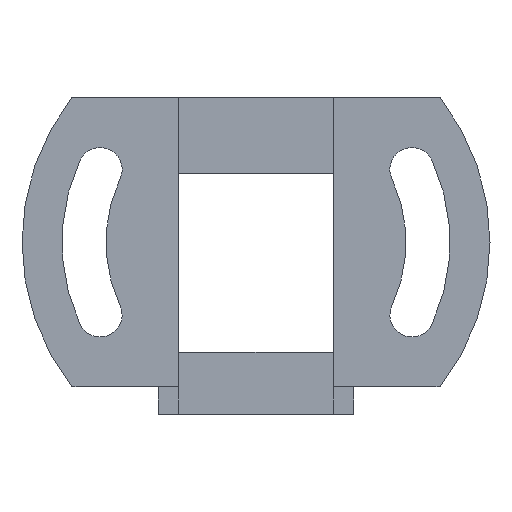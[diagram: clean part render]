
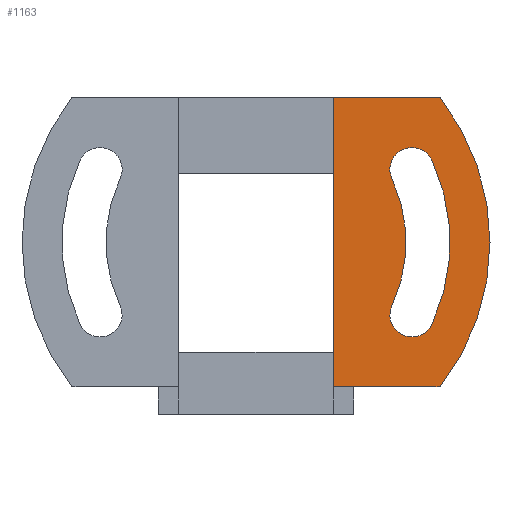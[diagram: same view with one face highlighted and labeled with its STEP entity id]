
A CAD part, front view. The second image highlights one B-rep face of the part: STEP entity #1163.
In plain terms, the highlighted planar face has unit normal (0, -1, 0).
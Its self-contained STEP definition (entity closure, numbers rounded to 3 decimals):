
#39 = CIRCLE ( 'NONE', #40, 10.9 ) ;
#40 = AXIS2_PLACEMENT_3D ( 'NONE', #41, #42, #43 ) ;
#41 = CARTESIAN_POINT ( 'NONE',  ( 12.5, 0., 0. ) ) ;
#42 = DIRECTION ( 'NONE',  ( 0., -1., 0. ) ) ;
#43 = DIRECTION ( 'NONE',  ( 0., 0., 1. ) ) ;
#93 = CIRCLE ( 'NONE', #94, 1.6 ) ;
#94 = AXIS2_PLACEMENT_3D ( 'NONE', #95, #96, #97 ) ;
#95 = CARTESIAN_POINT ( 'NONE',  ( 23.829, 0., -5.283 ) ) ;
#96 = DIRECTION ( 'NONE',  ( 0., 1., 0. ) ) ;
#97 = DIRECTION ( 'NONE',  ( 0., 0., -1. ) ) ;
#110 = CARTESIAN_POINT ( 'NONE',  ( 25.279, 0., 5.959 ) ) ;
#117 = CIRCLE ( 'NONE', #118, 14.1 ) ;
#118 = AXIS2_PLACEMENT_3D ( 'NONE', #119, #120, #121 ) ;
#119 = CARTESIAN_POINT ( 'NONE',  ( 12.5, 0., 0. ) ) ;
#120 = DIRECTION ( 'NONE',  ( 0., 1., 0. ) ) ;
#121 = DIRECTION ( 'NONE',  ( 0., 0., 1. ) ) ;
#177 = LINE ( 'NONE', #178, #179 ) ;
#178 = CARTESIAN_POINT ( 'NONE',  ( 62.5, 0., -10.5 ) ) ;
#179 = VECTOR ( 'NONE', #180, 1000. ) ;
#180 = DIRECTION ( 'NONE',  ( -1., 0., 0. ) ) ;
#281 = LINE ( 'NONE', #282, #283 ) ;
#282 = CARTESIAN_POINT ( 'NONE',  ( 18.1, 0., -12.5 ) ) ;
#283 = VECTOR ( 'NONE', #284, 1000. ) ;
#284 = DIRECTION ( 'NONE',  ( 0., 0., 1. ) ) ;
#412 = VERTEX_POINT ( 'NONE', #983 ) ;
#438 = EDGE_CURVE ( 'NONE', #412, #779, #1104, .T. ) ;
#478 = ORIENTED_EDGE ( 'NONE', *, *, #438, .T. ) ;
#521 = VERTEX_POINT ( 'NONE', #1664 ) ;
#533 = ORIENTED_EDGE ( 'NONE', *, *, #553, .T. ) ;
#553 = EDGE_CURVE ( 'NONE', #779, #1797, #93, .T. ) ;
#565 = EDGE_CURVE ( 'NONE', #732, #806, #177, .T. ) ;
#588 = ORIENTED_EDGE ( 'NONE', *, *, #1952, .F. ) ;
#607 = ORIENTED_EDGE ( 'NONE', *, *, #642, .F. ) ;
#609 = EDGE_LOOP ( 'NONE', ( #1933, #607, #588, #801 ) ) ;
#617 = EDGE_LOOP ( 'NONE', ( #1513, #1391, #478, #533, #1918 ) ) ;
#634 = EDGE_CURVE ( 'NONE', #800, #732, #960, .T. ) ;
#642 = EDGE_CURVE ( 'NONE', #1799, #800, #989, .T. ) ;
#732 = VERTEX_POINT ( 'NONE', #1284 ) ;
#779 = VERTEX_POINT ( 'NONE', #1425 ) ;
#800 = VERTEX_POINT ( 'NONE', #1480 ) ;
#801 = ORIENTED_EDGE ( 'NONE', *, *, #565, .F. ) ;
#806 = VERTEX_POINT ( 'NONE', #1502 ) ;
#840 = CARTESIAN_POINT ( 'NONE',  ( 22.379, 0., -4.607 ) ) ;
#847 = CARTESIAN_POINT ( 'NONE',  ( 18.1, 0., 10.5 ) ) ;
#960 = CIRCLE ( 'NONE', #961, 17. ) ;
#961 = AXIS2_PLACEMENT_3D ( 'NONE', #962, #963, #964 ) ;
#962 = CARTESIAN_POINT ( 'NONE',  ( 12.5, 0., 0. ) ) ;
#963 = DIRECTION ( 'NONE',  ( 0., 1., 0. ) ) ;
#964 = DIRECTION ( 'NONE',  ( 0., 0., 1. ) ) ;
#983 = CARTESIAN_POINT ( 'NONE',  ( 25.279, 0., -5.959 ) ) ;
#989 = LINE ( 'NONE', #990, #991 ) ;
#990 = CARTESIAN_POINT ( 'NONE',  ( 18.1, 0., 10.5 ) ) ;
#991 = VECTOR ( 'NONE', #992, 1000. ) ;
#992 = DIRECTION ( 'NONE',  ( 1., 0., 0. ) ) ;
#1104 = CIRCLE ( 'NONE', #1105, 1.6 ) ;
#1105 = AXIS2_PLACEMENT_3D ( 'NONE', #1106, #1110, #1111 ) ;
#1106 = CARTESIAN_POINT ( 'NONE',  ( 23.829, 0., -5.283 ) ) ;
#1110 = DIRECTION ( 'NONE',  ( 0., 1., 0. ) ) ;
#1111 = DIRECTION ( 'NONE',  ( 0., 0., -1. ) ) ;
#1129 = CIRCLE ( 'NONE', #1130, 1.6 ) ;
#1130 = AXIS2_PLACEMENT_3D ( 'NONE', #1131, #1132, #1133 ) ;
#1131 = CARTESIAN_POINT ( 'NONE',  ( 23.829, 0., 5.283 ) ) ;
#1132 = DIRECTION ( 'NONE',  ( 0., 1., 0. ) ) ;
#1133 = DIRECTION ( 'NONE',  ( 0., 0., 1. ) ) ;
#1163 = ADVANCED_FACE ( 'NONE', ( #1729, #1730 ), #1731, .T. ) ;
#1284 = CARTESIAN_POINT ( 'NONE',  ( 25.87, 0., -10.5 ) ) ;
#1391 = ORIENTED_EDGE ( 'NONE', *, *, #1449, .T. ) ;
#1425 = CARTESIAN_POINT ( 'NONE',  ( 23.829, 0., -6.883 ) ) ;
#1431 = VERTEX_POINT ( 'NONE', #110 ) ;
#1449 = EDGE_CURVE ( 'NONE', #1431, #412, #117, .T. ) ;
#1480 = CARTESIAN_POINT ( 'NONE',  ( 25.87, 0., 10.5 ) ) ;
#1502 = CARTESIAN_POINT ( 'NONE',  ( 18.1, 0., -10.5 ) ) ;
#1513 = ORIENTED_EDGE ( 'NONE', *, *, #1830, .T. ) ;
#1664 = CARTESIAN_POINT ( 'NONE',  ( 22.379, 0., 4.607 ) ) ;
#1729 = FACE_OUTER_BOUND ( 'NONE', #609, .T. ) ;
#1730 = FACE_BOUND ( 'NONE', #617, .T. ) ;
#1731 = PLANE ( 'NONE',  #1732 ) ;
#1732 = AXIS2_PLACEMENT_3D ( 'NONE', #1739, #1740, #1741 ) ;
#1739 = CARTESIAN_POINT ( 'NONE',  ( 18.1, 0., -12.5 ) ) ;
#1740 = DIRECTION ( 'NONE',  ( 0., -1., 0. ) ) ;
#1741 = DIRECTION ( 'NONE',  ( 0., 0., -1. ) ) ;
#1797 = VERTEX_POINT ( 'NONE', #840 ) ;
#1799 = VERTEX_POINT ( 'NONE', #847 ) ;
#1830 = EDGE_CURVE ( 'NONE', #521, #1431, #1129, .T. ) ;
#1912 = EDGE_CURVE ( 'NONE', #1797, #521, #39, .T. ) ;
#1918 = ORIENTED_EDGE ( 'NONE', *, *, #1912, .T. ) ;
#1933 = ORIENTED_EDGE ( 'NONE', *, *, #634, .F. ) ;
#1952 = EDGE_CURVE ( 'NONE', #806, #1799, #281, .T. ) ;
